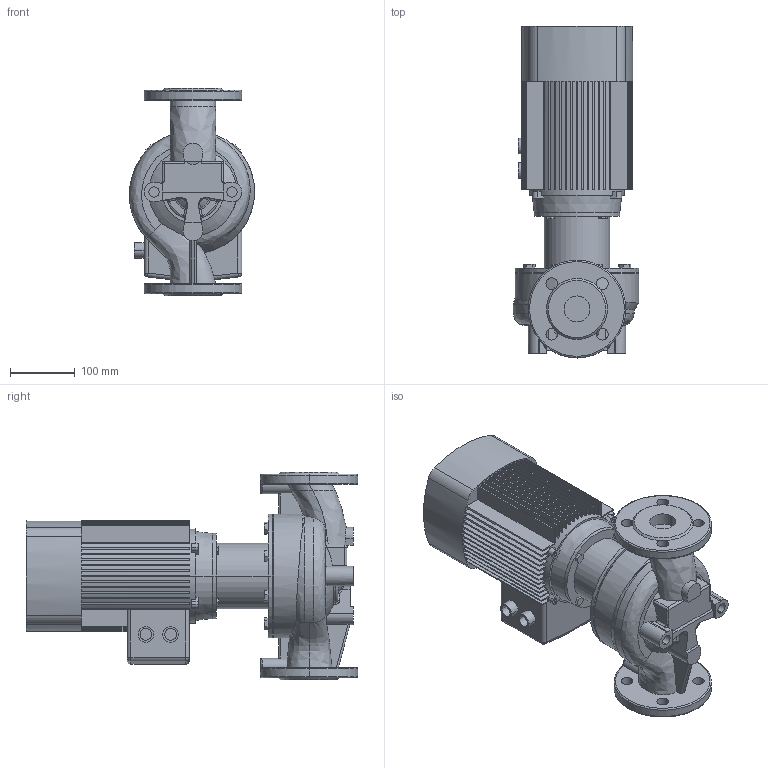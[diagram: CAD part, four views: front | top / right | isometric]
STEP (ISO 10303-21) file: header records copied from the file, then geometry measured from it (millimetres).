
FILE_DESCRIPTION (( 'STEP AP203' ), '1' );
FILE_NAME ('TD40-21G_2.STEP', '2022-05-02T14:03:03', ( '' ), ( '' ), 'SwSTEP 2.0', 'SolidWorks 2019', '' );
FILE_SCHEMA (( 'CONFIG_CONTROL_DESIGN' ));
Length unit declared in the file: millimetre
Products named in the file (4): Fon_40_TD40-21G_2; ED_B14_YE2-90S-2 (1.5); TD40-21G_2; Pr_ch 40_TD40-21G_2
Assembly tree (3 placements, depth 2):
  TD40-21G_2
    Pr_ch 40_TD40-21G_2
    Fon_40_TD40-21G_2
    ED_B14_YE2-90S-2 (1.5)
Bounding box: 193.1 x 511 x 320 mm (x, y, z)
Volume: 10644932.5 mm3; surface area: 851420.9 mm2
Topology: 3 solids, 5 shells, 649 faces, 1750 edges, 1140 vertices
Faces by surface type: plane 400, cylinder 167, bspline 35, torus 26, cone 11, sphere 10
Entity records: 26274 total; most frequent: CARTESIAN_POINT 9468, ORIENTED_EDGE 3492, DIRECTION 3415, EDGE_CURVE 1746, AXIS2_PLACEMENT_3D 1231, VERTEX_POINT 1140, LINE 953, VECTOR 953
